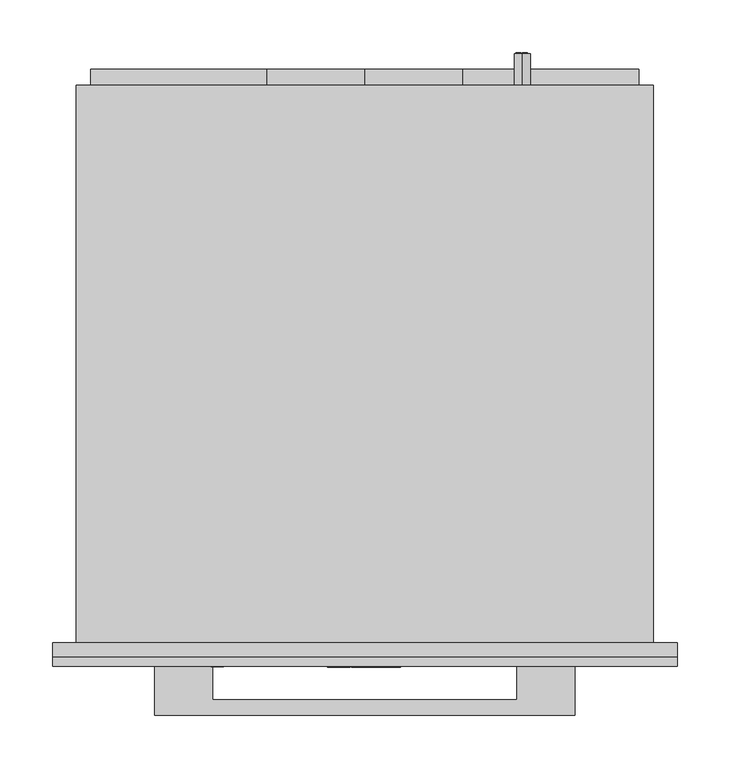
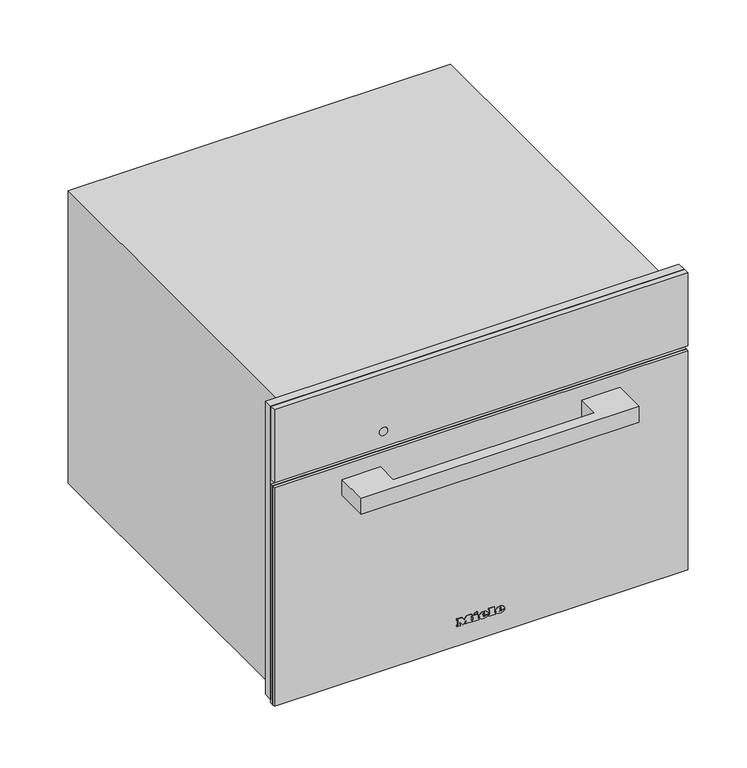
"""IFC4 building model written with IfcOpenShell, lengths in millimetres: proxy geometry, 11106300_D_DG2840_GRGR : 23284030_D_11106300_DG2840_GRGR."""

from ifc_helpers import new_model, si_unit, point, frame, frame_2d, origin, place, context, project, spatial, polyline, circle_curve, ellipse_curve, trimmed, segment, composite_curve, outline, extrude, faceted_brep, source, transform, mapped, element, save
from ifc_brep_helpers import plane_surface, cylinder_surface, revolved_surface, extruded_surface, advanced_brep


def specialty_equipment_739824af(model_context):
    return source(origin(), model_context, "Body", "SolidModel", [
        extrude(outline(polyline([(455.0, 297.5), (455.0, -297.5), (9.0, -297.5), (9.0, -272.5), (344.0, -272.5), (344.0, 272.5), (9.0, 272.5), (9.0, 297.5), (455.0, 297.5)])), frame((0.0, -13.0, 0.0), z_axis=(0.0, 1.0, 0.0), x_axis=(0.0, 0.0, 1.0)), (0.0, 0.0, 1.0), 13.0),
        advanced_brep(
        [(150.0, 561.0, 410.5), (150.0, 561.0, 395.5), (144.4098301, 561.0, 398.0), (148.5, 561.0, 398.0), (148.5, 561.0, 408.0), (147.4955303, 561.0, 408.0), (147.4955303, 561.0, 399.0), (144.0315043, 561.0, 399.0), (144.0315043, 561.0, 398.4582978), (155.0, 561.0, 398.0), (155.0, 561.0, 408.0), (150.0, 561.0, 408.0), (150.0, 561.0, 407.0), (154.0, 561.0, 407.0), (154.0, 561.0, 403.5), (151.0, 561.0, 403.5), (151.0, 561.0, 402.5), (154.0, 561.0, 402.5), (154.0, 561.0, 399.0), (150.0, 561.0, 399.0), (150.0, 561.0, 398.0), (150.0, 531.0, 395.5), (150.0, 531.0, 410.5), (155.0, 562.0, 408.0), (155.0, 562.0, 398.0), (150.0, 562.0, 398.0), (150.0, 562.0, 399.0), (154.0, 562.0, 399.0), (154.0, 562.0, 402.5), (151.0, 562.0, 402.5), (151.0, 562.0, 403.5), (154.0, 562.0, 403.5), (154.0, 562.0, 407.0), (150.0, 562.0, 407.0), (150.0, 562.0, 408.0), (148.5, 562.0, 398.0), (144.0315043, 562.0, 398.0), (144.0315043, 562.0, 399.0), (147.4955303, 562.0, 399.0), (147.4955303, 562.0, 408.0), (148.5, 562.0, 408.0), (144.0315043, 561.0, 398.0)],
        [
            (0, 1, circle_curve(frame((150.0, 561.0, 403.0), z_axis=(0.0, 1.0, 0.0), x_axis=(0.0, 0.0, 1.0)), 7.5)),
            (1, 2, circle_curve(frame((150.0, 561.0, 403.0), z_axis=(0.0, 1.0, 0.0), x_axis=(0.0, 0.0, 1.0)), 7.5)),
            (2, 3),
            (3, 4),
            (4, 5),
            (5, 6),
            (6, 7),
            (7, 8),
            (8, 0, circle_curve(frame((150.0, 561.0, 403.0), z_axis=(0.0, 1.0, 0.0), x_axis=(0.0, 0.0, 1.0)), 7.5)),
            (9, 10),
            (10, 11),
            (11, 12),
            (12, 13),
            (13, 14),
            (14, 15),
            (15, 16),
            (16, 17),
            (17, 18),
            (18, 19),
            (19, 20),
            (20, 9),
            (21, 22, circle_curve(frame((150.0, 531.0, 403.0), z_axis=(0.0, -1.0, 0.0), x_axis=(0.0, 0.0, 1.0)), 7.5)),
            (22, 21, circle_curve(frame((150.0, 531.0, 403.0), z_axis=(0.0, -1.0, 0.0), x_axis=(0.0, 0.0, 1.0)), 7.5)),
            (0, 22),
            (21, 1),
            (8, 2, circle_curve(frame((150.0, 561.0, 403.0), z_axis=(0.0, -1.0, 0.0), x_axis=(0.0, 0.0, 1.0)), 7.5)),
            (23, 24),
            (24, 25),
            (25, 26),
            (26, 27),
            (27, 28),
            (28, 29),
            (29, 30),
            (30, 31),
            (31, 32),
            (32, 33),
            (33, 34),
            (34, 23),
            (35, 36),
            (36, 37),
            (37, 38),
            (38, 39),
            (39, 40),
            (40, 35),
            (8, 41),
            (41, 2),
            (23, 10),
            (9, 24),
            (20, 25),
            (19, 26),
            (18, 27),
            (17, 28),
            (16, 29),
            (15, 30),
            (14, 31),
            (13, 32),
            (12, 33),
            (11, 34),
            (35, 3),
            (41, 36),
            (7, 37),
            (6, 38),
            (5, 39),
            (4, 40),
        ],
        [
            plane_surface(frame((150.0, 561.0, 410.5), z_axis=(0.0, 1.0, 0.0), x_axis=(1.0, 0.0, 0.0))),
            plane_surface(frame((150.0, 531.0, 410.5), z_axis=(0.0, -1.0, 0.0), x_axis=(-1.0, 0.0, 0.0))),
            cylinder_surface(frame((150.0, 561.0, 403.0), z_axis=(0.0, -1.0, 0.0), x_axis=(0.0, 0.0, 1.0)), 7.5),
            plane_surface(frame((155.0, 562.0, 408.0), z_axis=(0.0, 1.0, 0.0), x_axis=(0.0, 0.0, -1.0))),
            plane_surface(frame((155.0, 561.0, 408.0), z_axis=(0.0, -1.0, 0.0), x_axis=(0.0, 0.0, 1.0))),
            plane_surface(frame((155.0, 562.0, 408.0), z_axis=(1.0, 0.0, 0.0), x_axis=(0.0, -1.0, 0.0))),
            plane_surface(frame((155.0, 562.0, 398.0), z_axis=(0.0, 0.0, -1.0), x_axis=(0.0, -1.0, 0.0))),
            plane_surface(frame((150.0, 562.0, 398.0), z_axis=(-1.0, 0.0, 0.0), x_axis=(0.0, -1.0, 0.0))),
            plane_surface(frame((150.0, 562.0, 399.0), z_axis=(0.0, 0.0, 1.0), x_axis=(0.0, -1.0, 0.0))),
            plane_surface(frame((154.0, 562.0, 399.0), z_axis=(-1.0, 0.0, 0.0), x_axis=(0.0, -1.0, 0.0))),
            plane_surface(frame((154.0, 562.0, 402.5), z_axis=(0.0, 0.0, -1.0), x_axis=(0.0, -1.0, 0.0))),
            plane_surface(frame((151.0, 562.0, 402.5), z_axis=(-1.0, 0.0, 0.0), x_axis=(0.0, -1.0, 0.0))),
            plane_surface(frame((151.0, 562.0, 403.5), z_axis=(0.0, 0.0, 1.0), x_axis=(0.0, -1.0, 0.0))),
            plane_surface(frame((154.0, 562.0, 403.5), z_axis=(-1.0, 0.0, 0.0), x_axis=(0.0, -1.0, 0.0))),
            plane_surface(frame((154.0, 562.0, 407.0), z_axis=(0.0, 0.0, -1.0), x_axis=(0.0, -1.0, 0.0))),
            plane_surface(frame((150.0, 562.0, 407.0), z_axis=(-1.0, 0.0, 0.0), x_axis=(0.0, -1.0, 0.0))),
            plane_surface(frame((150.0, 562.0, 408.0), z_axis=(0.0, 0.0, 1.0), x_axis=(0.0, -1.0, 0.0))),
            plane_surface(frame((148.5, 562.0, 398.0), z_axis=(0.0, 0.0, -1.0), x_axis=(0.0, -1.0, 0.0))),
            plane_surface(frame((144.0315043, 562.0, 398.0), z_axis=(-1.0, 0.0, 0.0), x_axis=(0.0, -1.0, 0.0))),
            plane_surface(frame((144.0315043, 562.0, 399.0), z_axis=(0.0, 0.0, 1.0), x_axis=(0.0, -1.0, 0.0))),
            plane_surface(frame((147.4955303, 562.0, 399.0), z_axis=(-1.0, 0.0, 0.0), x_axis=(0.0, -1.0, 0.0))),
            plane_surface(frame((147.4955303, 562.0, 408.0), z_axis=(0.0, 0.0, 1.0), x_axis=(0.0, -1.0, 0.0))),
            plane_surface(frame((148.5, 562.0, 408.0), z_axis=(1.0, 0.0, 0.0), x_axis=(0.0, -1.0, 0.0))),
        ],
        [
            (0, [[1, 2, 3, 4, 5, 6, 7, 8, 9], [10, 11, 12, 13, 14, 15, 16, 17, 18, 19, 20, 21]]),
            (1, [[22, 23]]),
            (2, [[-1, 24, -22, 25]]),
            (2, [[-23, -24, -9, 26, -2, -25]]),
            (3, [[27, 28, 29, 30, 31, 32, 33, 34, 35, 36, 37, 38]]),
            (3, [[39, 40, 41, 42, 43, 44]]),
            (4, [[45, 46, -26]]),
            (5, [[-27, 47, -10, 48]]),
            (6, [[-28, -48, -21, 49]]),
            (7, [[-29, -49, -20, 50]]),
            (8, [[-30, -50, -19, 51]]),
            (9, [[-31, -51, -18, 52]]),
            (10, [[-32, -52, -17, 53]]),
            (11, [[-33, -53, -16, 54]]),
            (12, [[-34, -54, -15, 55]]),
            (13, [[-35, -55, -14, 56]]),
            (14, [[-36, -56, -13, 57]]),
            (15, [[-37, -57, -12, 58]]),
            (16, [[-38, -58, -11, -47]]),
            (17, [[-39, 59, -3, -46, 60]]),
            (18, [[-40, -60, -45, -8, 61]]),
            (19, [[-41, -61, -7, 62]]),
            (20, [[-42, -62, -6, 63]]),
            (21, [[-43, -63, -5, 64]]),
            (22, [[-44, -64, -4, -59]]),
        ],
    ),
        extrude(outline(polyline([(299.0, -93.0), (258.0, -93.0), (258.0, -261.0), (111.0, -261.0), (111.0, -93.0), (70.0, -93.0), (70.0, 0.0), (70.0, 93.0), (111.0, 93.0), (111.0, 261.0), (258.0, 261.0), (258.0, 93.0), (299.0, 93.0), (299.0, 0.0), (299.0, -93.0)])), frame((0.0, 531.0, 0.0), z_axis=(0.0, 1.0, 0.0), x_axis=(0.0, 0.0, 1.0)), (0.0, 0.0, 1.0), 15.0),
        faceted_brep([(275.0, 531.0, 445.0), (275.0, 531.0, 0.0), (-275.0, 531.0, 0.0), (-275.0, 531.0, 445.0), (275.0, 0.0, 445.0), (-275.0, 0.0, 445.0), (-275.0, 0.0, 0.0), (275.0, 0.0, 0.0), (-272.5, 0.0, 344.0), (272.5, 0.0, 344.0), (272.5, 0.0, 8.0), (-272.5, 0.0, 8.0), (272.5, 34.0, 344.0), (-272.5, 34.0, 344.0), (-272.5, 34.0, 8.0), (272.5, 34.0, 8.0), (161.0, 34.0, 286.0), (161.0, 34.0, 58.0), (-220.0, 34.0, 58.0), (-220.0, 34.0, 286.0), (161.0, 444.0, 286.0), (-220.0, 444.0, 286.0), (-220.0, 444.0, 58.0), (161.0, 444.0, 58.0)], [[[0, 1, 2, 3]], [[4, 5, 6, 7], [8, 9, 10, 11]], [[0, 3, 5, 4]], [[3, 2, 6, 5]], [[2, 1, 7, 6]], [[1, 0, 4, 7]], [[12, 13, 14, 15], [16, 17, 18, 19]], [[13, 12, 9, 8]], [[14, 13, 8, 11]], [[15, 14, 11, 10]], [[12, 15, 10, 9]], [[20, 21, 22, 23]], [[20, 23, 17, 16]], [[23, 22, 18, 17]], [[22, 21, 19, 18]], [[21, 20, 16, 19]]]),
        advanced_brep(
        [(26.2998, -23.0, 36.7018), (26.2998, -23.0, 37.8532), (33.9264, -23.0, 37.8532), (20.6568, -23.0, 37.8532), (23.7918, -23.0, 34.0), (33.7326, -23.0, 36.7018), (30.2898, -23.0, 36.7018), (27.5766, -23.0, 35.425), (26.2998, -23.0, 39.3124), (26.2998, -23.0, 40.555), (28.2492, -23.0, 40.555), (28.2492, -23.0, 39.3124), (26.2998, -22.0, 36.7018), (27.5766, -22.0, 35.425), (30.2898, -22.0, 36.7018), (33.7326, -22.0, 36.7018), (23.7918, -22.0, 34.0), (20.6568, -22.0, 37.8532), (33.9264, -22.0, 37.8532), (26.2998, -22.0, 37.8532), (26.2998, -22.0, 39.3124), (28.2492, -22.0, 39.3124), (28.2492, -22.0, 40.555), (26.2998, -22.0, 40.555)],
        [
            (0, 1),
            (1, 2),
            (2, 3, ellipse_curve(frame((27.2916, -23.0, 37.8532), z_axis=(0.0, -1.0, 0.0), x_axis=(-1.0, 0.0, 0.0)), 6.6348, 5.4834)),
            (3, 4, circle_curve(frame((25.0686622, -23.0, 38.2408), z_axis=(0.0, -1.0, 0.0), x_axis=(0.0, 0.0, -1.0)), 4.4288556)),
            (4, 5, circle_curve(frame((27.1587808, -23.0, 41.2504), z_axis=(0.0, -1.0, 0.0), x_axis=(0.0, 0.0, -1.0)), 7.9940516)),
            (5, 6),
            (6, 7, circle_curve(frame((28.1338588, -23.0, 37.762), z_axis=(0.0, 1.0, 0.0), x_axis=(0.0, 0.0, -1.0)), 2.4025208)),
            (7, 0, circle_curve(frame((27.5766, -23.0, 36.7018), z_axis=(0.0, 1.0, 0.0), x_axis=(0.0, 0.0, -1.0)), 1.2768)),
            (8, 9),
            (9, 10, circle_curve(frame((27.2745, -23.0, 40.555), z_axis=(0.0, 1.0, 0.0), x_axis=(0.0, 0.0, -1.0)), 0.9747)),
            (10, 11),
            (11, 8),
            (12, 13, circle_curve(frame((27.5766, -22.0, 36.7018), z_axis=(0.0, -1.0, 0.0), x_axis=(0.0, 0.0, -1.0)), 1.2768)),
            (13, 14, circle_curve(frame((28.1338588, -22.0, 37.762), z_axis=(0.0, -1.0, 0.0), x_axis=(0.0, 0.0, -1.0)), 2.4025208)),
            (14, 15),
            (15, 16, circle_curve(frame((27.1587808, -22.0, 41.2504), z_axis=(0.0, 1.0, 0.0), x_axis=(0.0, 0.0, -1.0)), 7.9940516)),
            (16, 17, circle_curve(frame((25.0686622, -22.0, 38.2408), z_axis=(0.0, 1.0, 0.0), x_axis=(0.0, 0.0, -1.0)), 4.4288556)),
            (17, 18, ellipse_curve(frame((27.2916, -22.0, 37.8532), z_axis=(0.0, 1.0, 0.0), x_axis=(-1.0, 0.0, 0.0)), 6.6348, 5.4834)),
            (18, 19),
            (19, 12),
            (20, 21),
            (21, 22),
            (22, 23, circle_curve(frame((27.2745, -22.0, 40.555), z_axis=(0.0, -1.0, 0.0), x_axis=(0.0, 0.0, -1.0)), 0.9747)),
            (23, 20),
            (0, 12),
            (19, 1),
            (18, 2),
            (5, 15),
            (14, 6),
            (17, 3),
            (13, 7),
            (16, 4),
            (8, 20),
            (23, 9),
            (22, 10),
            (21, 11),
        ],
        [
            plane_surface(frame((26.2998, -23.0, 37.8532), z_axis=(0.0, -1.0, 0.0), x_axis=(0.0, 0.0, 1.0))),
            plane_surface(frame((26.2998, -22.0, 37.8532), z_axis=(0.0, 1.0, 0.0), x_axis=(0.0, 0.0, -1.0))),
            plane_surface(frame((26.2998, -23.0, 36.7018), z_axis=(1.0, 0.0, 0.0), x_axis=(0.0, 1.0, 0.0))),
            plane_surface(frame((26.2998, -23.0, 37.8532), z_axis=(0.0, 0.0, -1.0), x_axis=(0.0, 1.0, 0.0))),
            plane_surface(frame((33.7326, -23.0, 36.7018), z_axis=(0.0, 0.0, 1.0), x_axis=(0.0, 1.0, 0.0))),
            extruded_surface(trimmed(ellipse_curve(frame((27.2916, -21.0, 37.8532), z_axis=(0.0, -1.0, 0.0), x_axis=(-1.0, 0.0, 0.0)), 6.6348, 5.4834), [point((33.9264, -21.0, 37.8532))], [point((20.6568, -21.0, 37.8532))], True, "CARTESIAN"), (0.0, -1.0, 0.0), 1.0),
            revolved_surface(polyline([(28.1338588, -22.0, 35.3594792), (28.1338588, -23.0, 35.3594792)]), (28.1338588, -22.0, 37.762), (0.0, 1.0, 0.0)),
            revolved_surface(polyline([(27.5766, -22.0, 35.425), (27.5766, -23.0, 35.425)]), (27.5766, -22.0, 36.7018), (0.0, 1.0, 0.0)),
            cylinder_surface(frame((25.0686622, -22.0, 38.2408), z_axis=(0.0, -1.0, 0.0), x_axis=(0.0, 0.0, -1.0)), 4.4288556),
            cylinder_surface(frame((27.1587808, -22.0, 41.2504), z_axis=(0.0, -1.0, 0.0), x_axis=(0.0, 0.0, -1.0)), 7.9940516),
            plane_surface(frame((26.2998, -23.0, 39.3124), z_axis=(1.0, 0.0, 0.0), x_axis=(0.0, 1.0, 0.0))),
            revolved_surface(polyline([(27.2745, -22.0, 39.5803), (27.2745, -23.0, 39.5803)]), (27.2745, -22.0, 40.555), (0.0, 1.0, 0.0)),
            plane_surface(frame((28.2492, -23.0, 40.555), z_axis=(-1.0, 0.0, 0.0), x_axis=(0.0, 1.0, 0.0))),
            plane_surface(frame((28.2492, -23.0, 39.3124), z_axis=(0.0, 0.0, 1.0), x_axis=(0.0, 1.0, 0.0))),
        ],
        [
            (0, [[1, 2, 3, 4, 5, 6, 7, 8], [9, 10, 11, 12]]),
            (1, [[13, 14, 15, 16, 17, 18, 19, 20], [21, 22, 23, 24]]),
            (2, [[-1, 25, -20, 26]]),
            (3, [[-2, -26, -19, 27]]),
            (4, [[-6, 28, -15, 29]]),
            (5, [[-3, -27, -18, 30]]),
            (6, [[-7, -29, -14, 31]]),
            (7, [[-8, -31, -13, -25]]),
            (8, [[-4, -30, -17, 32]]),
            (9, [[-5, -32, -16, -28]]),
            (10, [[-9, 33, -24, 34]]),
            (11, [[-10, -34, -23, 35]]),
            (12, [[-11, -35, -22, 36]]),
            (13, [[-12, -36, -21, -33]]),
        ],
    ),
        advanced_brep(
        [(2.508, -23.0, 36.7018), (2.508, -23.0, 37.8532), (10.1346, -23.0, 37.8532), (-3.135, -23.0, 37.8532), (0.0, -23.0, 34.0), (9.9408, -23.0, 36.7018), (6.498, -23.0, 36.7018), (3.7848, -23.0, 35.425), (2.508, -23.0, 39.3124), (2.508, -23.0, 40.555), (4.4574, -23.0, 40.555), (4.4574, -23.0, 39.3124), (2.508, -22.0, 36.7018), (3.7848, -22.0, 35.425), (6.498, -22.0, 36.7018), (9.9408, -22.0, 36.7018), (0.0, -22.0, 34.0), (-3.135, -22.0, 37.8532), (10.1346, -22.0, 37.8532), (2.508, -22.0, 37.8532), (2.508, -22.0, 39.3124), (4.4574, -22.0, 39.3124), (4.4574, -22.0, 40.555), (2.508, -22.0, 40.555)],
        [
            (0, 1),
            (1, 2),
            (2, 3, ellipse_curve(frame((3.4998, -23.0, 37.8532), z_axis=(0.0, -1.0, 0.0), x_axis=(-1.0, 0.0, 0.0)), 6.6348, 5.4834)),
            (3, 4, circle_curve(frame((1.2768622, -23.0, 38.2408), z_axis=(0.0, -1.0, 0.0), x_axis=(0.0, 0.0, -1.0)), 4.4288556)),
            (4, 5, circle_curve(frame((3.3669808, -23.0, 41.2504), z_axis=(0.0, -1.0, 0.0), x_axis=(0.0, 0.0, -1.0)), 7.9940516)),
            (5, 6),
            (6, 7, circle_curve(frame((4.3420588, -23.0, 37.762), z_axis=(0.0, 1.0, 0.0), x_axis=(0.0, 0.0, -1.0)), 2.4025208)),
            (7, 0, circle_curve(frame((3.7848, -23.0, 36.7018), z_axis=(0.0, 1.0, 0.0), x_axis=(0.0, 0.0, -1.0)), 1.2768)),
            (8, 9),
            (9, 10, circle_curve(frame((3.4827, -23.0, 40.555), z_axis=(0.0, 1.0, 0.0), x_axis=(0.0, 0.0, -1.0)), 0.9747)),
            (10, 11),
            (11, 8),
            (12, 13, circle_curve(frame((3.7848, -22.0, 36.7018), z_axis=(0.0, -1.0, 0.0), x_axis=(0.0, 0.0, -1.0)), 1.2768)),
            (13, 14, circle_curve(frame((4.3420588, -22.0, 37.762), z_axis=(0.0, -1.0, 0.0), x_axis=(0.0, 0.0, -1.0)), 2.4025208)),
            (14, 15),
            (15, 16, circle_curve(frame((3.3669808, -22.0, 41.2504), z_axis=(0.0, 1.0, 0.0), x_axis=(0.0, 0.0, -1.0)), 7.9940516)),
            (16, 17, circle_curve(frame((1.2768622, -22.0, 38.2408), z_axis=(0.0, 1.0, 0.0), x_axis=(0.0, 0.0, -1.0)), 4.4288556)),
            (17, 18, ellipse_curve(frame((3.4998, -22.0, 37.8532), z_axis=(0.0, 1.0, 0.0), x_axis=(-1.0, 0.0, 0.0)), 6.6348, 5.4834)),
            (18, 19),
            (19, 12),
            (20, 21),
            (21, 22),
            (22, 23, circle_curve(frame((3.4827, -22.0, 40.555), z_axis=(0.0, -1.0, 0.0), x_axis=(0.0, 0.0, -1.0)), 0.9747)),
            (23, 20),
            (0, 12),
            (19, 1),
            (18, 2),
            (5, 15),
            (14, 6),
            (17, 3),
            (13, 7),
            (16, 4),
            (8, 20),
            (23, 9),
            (22, 10),
            (21, 11),
        ],
        [
            plane_surface(frame((2.508, -23.0, 37.8532), z_axis=(0.0, -1.0, 0.0), x_axis=(0.0, 0.0, 1.0))),
            plane_surface(frame((2.508, -22.0, 37.8532), z_axis=(0.0, 1.0, 0.0), x_axis=(0.0, 0.0, -1.0))),
            plane_surface(frame((2.508, -23.0, 36.7018), z_axis=(1.0, 0.0, 0.0), x_axis=(0.0, 1.0, 0.0))),
            plane_surface(frame((2.508, -23.0, 37.8532), z_axis=(0.0, 0.0, -1.0), x_axis=(0.0, 1.0, 0.0))),
            plane_surface(frame((9.9408, -23.0, 36.7018), z_axis=(0.0, 0.0, 1.0), x_axis=(0.0, 1.0, 0.0))),
            extruded_surface(trimmed(ellipse_curve(frame((3.4998, -21.0, 37.8532), z_axis=(0.0, -1.0, 0.0), x_axis=(-1.0, 0.0, 0.0)), 6.6348, 5.4834), [point((10.1346, -21.0, 37.8532))], [point((-3.135, -21.0, 37.8532))], True, "CARTESIAN"), (0.0, -1.0, 0.0), 1.0),
            revolved_surface(polyline([(4.3420588, -22.0, 35.3594792), (4.3420588, -23.0, 35.3594792)]), (4.3420588, -22.0, 37.762), (0.0, 1.0, 0.0)),
            revolved_surface(polyline([(3.7848, -22.0, 35.425), (3.7848, -23.0, 35.425)]), (3.7848, -22.0, 36.7018), (0.0, 1.0, 0.0)),
            cylinder_surface(frame((1.2768622, -22.0, 38.2408), z_axis=(0.0, -1.0, 0.0), x_axis=(0.0, 0.0, -1.0)), 4.4288556),
            cylinder_surface(frame((3.3669808, -22.0, 41.2504), z_axis=(0.0, -1.0, 0.0), x_axis=(0.0, 0.0, -1.0)), 7.9940516),
            plane_surface(frame((2.508, -23.0, 39.3124), z_axis=(1.0, 0.0, 0.0), x_axis=(0.0, 1.0, 0.0))),
            revolved_surface(polyline([(3.4827, -22.0, 39.5803), (3.4827, -23.0, 39.5803)]), (3.4827, -22.0, 40.555), (0.0, 1.0, 0.0)),
            plane_surface(frame((4.4574, -23.0, 40.555), z_axis=(-1.0, 0.0, 0.0), x_axis=(0.0, 1.0, 0.0))),
            plane_surface(frame((4.4574, -23.0, 39.3124), z_axis=(0.0, 0.0, 1.0), x_axis=(0.0, 1.0, 0.0))),
        ],
        [
            (0, [[1, 2, 3, 4, 5, 6, 7, 8], [9, 10, 11, 12]]),
            (1, [[13, 14, 15, 16, 17, 18, 19, 20], [21, 22, 23, 24]]),
            (2, [[-1, 25, -20, 26]]),
            (3, [[-2, -26, -19, 27]]),
            (4, [[-6, 28, -15, 29]]),
            (5, [[-3, -27, -18, 30]]),
            (6, [[-7, -29, -14, 31]]),
            (7, [[-8, -31, -13, -25]]),
            (8, [[-4, -30, -17, 32]]),
            (9, [[-5, -32, -16, -28]]),
            (10, [[-9, 33, -24, 34]]),
            (11, [[-10, -34, -23, 35]]),
            (12, [[-11, -35, -22, 36]]),
            (13, [[-12, -36, -21, -33]]),
        ],
    ),
        extrude(outline(polyline([(44.7274, -9.9522), (42.8806, -9.0858), (44.6818, -5.2212), (46.5286, -6.0762), (44.7274, -9.9522)])), frame((0.0, -23.0, 0.0), z_axis=(0.0, 1.0, 0.0), x_axis=(0.0, 0.0, 1.0)), (0.0, 0.0, 1.0), 1.0),
        extrude(outline(polyline([(42.6298, -12.768), (40.5892, -12.768), (40.5892, -11.4114), (35.9152, -11.4114), (35.9152, -12.768), (34.0, -12.768), (34.0, -3.7734), (35.9152, -3.7734), (35.9152, -5.0958), (42.6298, -5.0958), (42.6298, -12.768)])), frame((0.0, -23.0, 0.0), z_axis=(0.0, 1.0, 0.0), x_axis=(0.0, 0.0, 1.0)), (0.0, 0.0, 1.0), 1.0),
        extrude(outline(polyline([(43.5418, 10.773), (43.5418, 12.141), (35.9152, 12.141), (35.9152, 10.773), (34.0, 10.773), (34.0, 20.0184), (35.9152, 20.0184), (35.9152, 18.6162), (45.4, 18.6162), (45.4, 10.773), (43.5418, 10.773)])), frame((0.0, -23.0, 0.0), z_axis=(0.0, 1.0, 0.0), x_axis=(0.0, 0.0, 1.0)), (0.0, 0.0, 1.0), 1.0),
        extrude(outline(polyline([(43.5418, -35.4882), (43.5418, -34.1088), (35.9152, -34.1088), (35.9152, -35.4882), (34.0, -35.4882), (34.0, -30.4722), (35.9152, -30.4722), (35.9152, -31.8402), (40.7429247, -31.8402), (34.0, -26.7444), (40.9402223, -21.6258), (35.9152, -21.6258), (35.9152, -23.028), (34.0, -23.028), (34.0, -13.9308), (35.9152, -13.9308), (35.9152, -15.3786), (43.5418, -15.3786), (43.5418, -13.9308), (45.4, -13.9308), (45.4, -20.8734), (41.125, -24.2022), (45.4, -27.5424), (45.4, -35.4882), (43.5418, -35.4882)])), frame((0.0, -23.0, 0.0), z_axis=(0.0, 1.0, 0.0), x_axis=(0.0, 0.0, 1.0)), (0.0, 0.0, 1.0), 1.0),
        extrude(outline(polyline([(297.5, -22.0), (-297.5, -22.0), (-297.5, -13.0), (297.5, -13.0), (297.5, -22.0)])), frame((0.0, 0.0, 344.0), z_axis=(0.0, 0.0, 1.0), x_axis=(1.0, 0.0, 0.0)), (0.0, 0.0, 1.0), 111.0),
        extrude(outline(composite_curve([segment(trimmed(circle_curve(frame_2d((367.7, -140.5745637)), 6.0), [point((367.7, -146.5745637))], [point((367.7, -134.5745637))], False, "CARTESIAN"), True, "CONTINUOUS"), segment(trimmed(circle_curve(frame_2d((367.7, -140.5745637)), 6.0), [point((367.7, -134.5745637))], [point((367.7, -146.5745637))], False, "CARTESIAN"), True, "CONTINUOUS")], self_intersect=False)), frame((0.0, -22.5, 0.0), z_axis=(0.0, 1.0, 0.0), x_axis=(0.0, 0.0, 1.0)), (0.0, 0.0, 1.0), 1.0),
        extrude(outline(polyline([(-200.0, -69.0), (-200.0, -22.0), (-145.0, -22.0), (-145.0, -54.0), (145.0, -54.0), (145.0, -22.0), (200.0, -22.0), (200.0, -69.0), (-200.0, -69.0)])), frame((0.0, 0.0, 291.0), z_axis=(0.0, 0.0, 1.0), x_axis=(1.0, 0.0, 0.0)), (0.0, 0.0, 1.0), 24.0),
        extrude(outline(polyline([(297.5, -18.0), (-297.5, -18.0), (-297.5, -13.0), (297.5, -13.0), (297.5, -18.0)])), frame((0.0, 0.0, 4.0), z_axis=(0.0, 0.0, 1.0), x_axis=(1.0, 0.0, 0.0)), (0.0, 0.0, 1.0), 333.0),
        extrude(outline(polyline([(-297.5, -18.0), (297.5, -18.0), (297.5, -22.0), (-297.5, -22.0), (-297.5, -18.0)])), frame((0.0, 0.0, 4.0), z_axis=(0.0, 0.0, 1.0), x_axis=(1.0, 0.0, 0.0)), (0.0, 0.0, 1.0), 333.0),
    ])


if __name__ == "__main__":
    model = new_model("IFC4")
    model_context = context("Model", 3, world=origin())
    ifc_project = project(units=[si_unit("LENGTHUNIT", "METRE", prefix="MILLI")], contexts=[model_context])
    site = spatial("IfcSite", under=ifc_project)
    building = spatial("IfcBuilding", under=site)
    placement = place(None, origin())
    specialty_equipment_shape = specialty_equipment_739824af(model_context)
    element("IfcBuildingElementProxy", 1, Name="11106300_D_DG2840_GRGR : 23284030_D_11106300_DG2840_GRGR", ObjectType="11106300_D_DG2840_GRGR : 23284030_D_11106300_DG2840_GRGR", at=placement, inside=building, context=model_context, shape_type="MappedRepresentation", body=[
        mapped(specialty_equipment_shape, transform((0.0, 0.0, 0.0), x_axis=(1.0, 0.0, 0.0), y_axis=(0.0, 1.0, 0.0), z_axis=(0.0, 0.0, 1.0))),
    ])
    save(model, "model.ifc")
